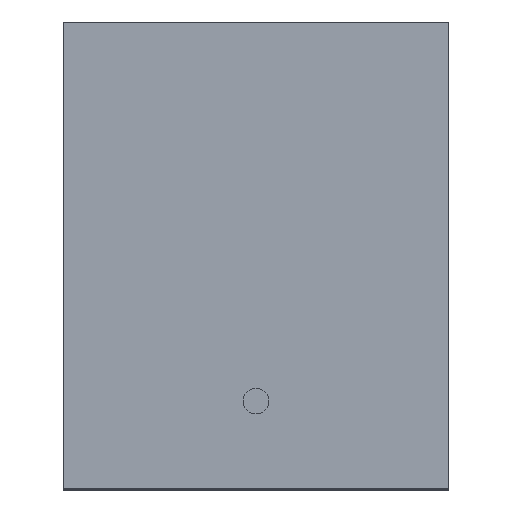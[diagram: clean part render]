
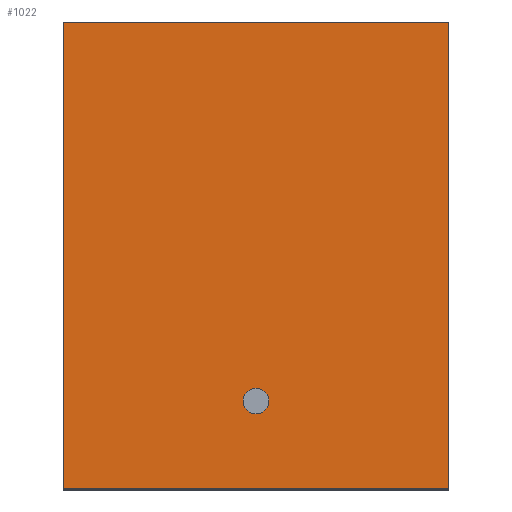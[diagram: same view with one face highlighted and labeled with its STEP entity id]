
A CAD part, top view. The second image highlights one B-rep face of the part: STEP entity #1022.
In plain terms, the highlighted planar face has unit normal (0, 0, 1).
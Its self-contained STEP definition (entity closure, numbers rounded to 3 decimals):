
#309=DIRECTION('',(0.,1.,0.));
#310=VECTOR('',#309,606.);
#311=CARTESIAN_POINT('',(-250.,-327.,375.));
#312=LINE('',#311,#310);
#313=DIRECTION('',(0.,-1.,0.));
#314=VECTOR('',#313,606.);
#315=CARTESIAN_POINT('',(250.,279.,375.));
#316=LINE('',#315,#314);
#317=DIRECTION('',(1.,0.,0.));
#318=VECTOR('',#317,500.);
#319=CARTESIAN_POINT('',(-250.,-327.,375.));
#320=LINE('',#319,#318);
#321=CARTESIAN_POINT('',(0.,-213.,375.));
#322=DIRECTION('',(0.,0.,1.));
#323=DIRECTION('',(1.,0.,0.));
#324=AXIS2_PLACEMENT_3D('',#321,#322,#323);
#326=CARTESIAN_POINT('',(0.,-213.,375.));
#327=DIRECTION('',(0.,0.,1.));
#328=DIRECTION('',(-1.,0.,0.));
#329=AXIS2_PLACEMENT_3D('',#326,#327,#328);
#335=DIRECTION('',(-1.,0.,0.));
#336=VECTOR('',#335,500.);
#337=CARTESIAN_POINT('',(250.,279.,375.));
#338=LINE('',#337,#336);
#437=CARTESIAN_POINT('',(-250.,-327.,375.));
#438=CARTESIAN_POINT('',(250.,-327.,375.));
#439=VERTEX_POINT('',#437);
#440=VERTEX_POINT('',#438);
#542=CARTESIAN_POINT('',(250.,279.,375.));
#544=VERTEX_POINT('',#542);
#547=CARTESIAN_POINT('',(-250.,279.,375.));
#548=VERTEX_POINT('',#547);
#557=CARTESIAN_POINT('',(16.625,-213.,375.));
#558=CARTESIAN_POINT('',(-16.625,-213.,375.));
#559=VERTEX_POINT('',#557);
#560=VERTEX_POINT('',#558);
#1004=CARTESIAN_POINT('',(0.,0.,375.));
#1005=DIRECTION('',(0.,0.,1.));
#1006=DIRECTION('',(1.,0.,0.));
#1007=AXIS2_PLACEMENT_3D('',#1004,#1005,#1006);
#1008=PLANE('',#1007);
#1009=ORIENTED_EDGE('',*,*,#699,.T.);
#1011=ORIENTED_EDGE('',*,*,#1010,.F.);
#1012=ORIENTED_EDGE('',*,*,#586,.T.);
#1013=ORIENTED_EDGE('',*,*,#987,.F.);
#1014=EDGE_LOOP('',(#1009,#1011,#1012,#1013));
#1015=FACE_OUTER_BOUND('',#1014,.F.);
#1017=ORIENTED_EDGE('',*,*,#1016,.T.);
#1019=ORIENTED_EDGE('',*,*,#1018,.T.);
#1020=EDGE_LOOP('',(#1017,#1019));
#1021=FACE_BOUND('',#1020,.F.);
#325=CIRCLE('',#324,16.625);
#330=CIRCLE('',#329,16.625);
#586=EDGE_CURVE('',#544,#440,#316,.T.);
#699=EDGE_CURVE('',#439,#548,#312,.T.);
#987=EDGE_CURVE('',#439,#440,#320,.T.);
#1010=EDGE_CURVE('',#544,#548,#338,.T.);
#1016=EDGE_CURVE('',#559,#560,#325,.T.);
#1018=EDGE_CURVE('',#560,#559,#330,.T.);
#1022=ADVANCED_FACE('',(#1015,#1021),#1008,.T.);
